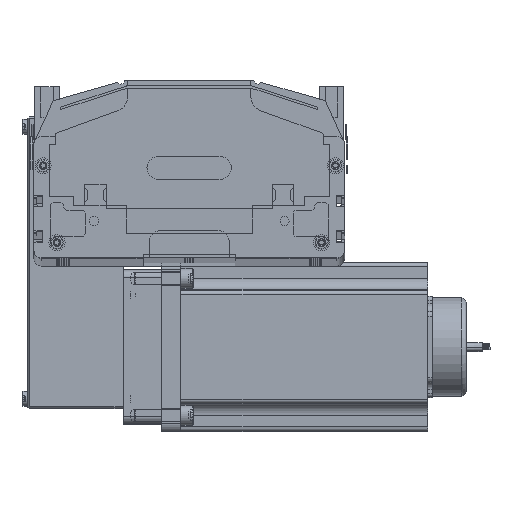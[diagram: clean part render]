
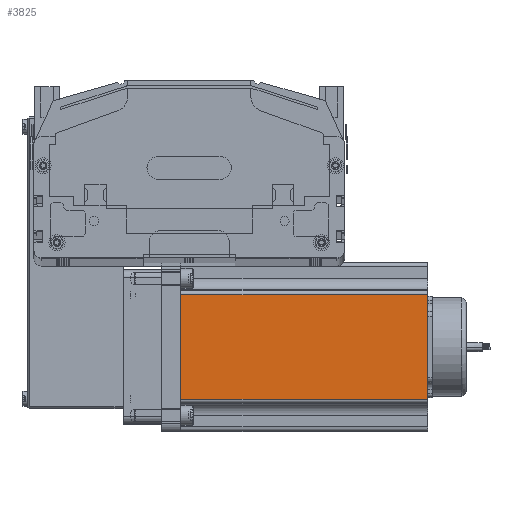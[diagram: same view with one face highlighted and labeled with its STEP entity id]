
A CAD part, top view. The second image highlights one B-rep face of the part: STEP entity #3825.
In plain terms, the highlighted planar face has unit normal (0, 0, 1) as drawn and (0, -1, 0) by its records, which use the part's own axes.
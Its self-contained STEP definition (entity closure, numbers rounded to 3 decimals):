
#3213 = DIRECTION ( 'NONE',  ( 0., 0., 1. ) ) ;
#3214 = VECTOR ( 'NONE', #3213, 1000. ) ;
#3215 = CARTESIAN_POINT ( 'NONE',  ( 88.952, 0., 160.5 ) ) ;
#3216 = LINE ( 'NONE', #3215, #3214 ) ;
#3217 = DIRECTION ( 'NONE',  ( 0., 0., 1. ) ) ;
#3218 = DIRECTION ( 'NONE',  ( 0., 1., 0. ) ) ;
#3219 = CARTESIAN_POINT ( 'NONE',  ( 0., 0., 160.5 ) ) ;
#3220 = AXIS2_PLACEMENT_3D ( 'NONE', #3219, #3218, #3217 ) ;
#3221 = CARTESIAN_POINT ( 'NONE',  ( 88.952, 0., 160.5 ) ) ;
#3222 = PLANE ( 'NONE',  #3220 ) ;
#3224 = FACE_OUTER_BOUND ( 'NONE', #3899, .T. ) ;
#3298 = LINE ( 'NONE', #3327, #3326 ) ;
#3325 = DIRECTION ( 'NONE',  ( 1., 0., 0. ) ) ;
#3326 = VECTOR ( 'NONE', #3325, 1000. ) ;
#3327 = CARTESIAN_POINT ( 'NONE',  ( 0., 0., 0. ) ) ;
#3330 = CARTESIAN_POINT ( 'NONE',  ( 88.952, 0., 0. ) ) ;
#3331 = CARTESIAN_POINT ( 'NONE',  ( 21.048, 0., 0. ) ) ;
#3564 = ORIENTED_EDGE ( 'NONE', *, *, #10217, .F. ) ;
#3825 = ADVANCED_FACE ( 'NONE', ( #3224 ), #3222, .F. ) ;
#3827 = ORIENTED_EDGE ( 'NONE', *, *, #3831, .T. ) ;
#3829 = ORIENTED_EDGE ( 'NONE', *, *, #3960, .T. ) ;
#3831 = EDGE_CURVE ( 'NONE', #3959, #3837, #3216, .T. ) ;
#3837 = VERTEX_POINT ( 'NONE', #3221 ) ;
#3899 = EDGE_LOOP ( 'NONE', ( #3829, #3827, #3564, #10146 ) ) ;
#3957 = VERTEX_POINT ( 'NONE', #3331 ) ;
#3959 = VERTEX_POINT ( 'NONE', #3330 ) ;
#3960 = EDGE_CURVE ( 'NONE', #3957, #3959, #3298, .T. ) ;
#10146 = ORIENTED_EDGE ( 'NONE', *, *, #10305, .T. ) ;
#10217 = EDGE_CURVE ( 'NONE', #10251, #3837, #85827, .T. ) ;
#10251 = VERTEX_POINT ( 'NONE', #85909 ) ;
#10305 = EDGE_CURVE ( 'NONE', #10251, #3957, #49881, .T. ) ;
#49866 = DIRECTION ( 'NONE',  ( 0., 0., -1. ) ) ;
#49867 = VECTOR ( 'NONE', #49866, 1000. ) ;
#49880 = CARTESIAN_POINT ( 'NONE',  ( 21.048, 0., 160.5 ) ) ;
#49881 = LINE ( 'NONE', #49880, #49867 ) ;
#85823 = DIRECTION ( 'NONE',  ( 1., 0., 0. ) ) ;
#85824 = VECTOR ( 'NONE', #85823, 1000. ) ;
#85825 = CARTESIAN_POINT ( 'NONE',  ( 0., 0., 160.5 ) ) ;
#85827 = LINE ( 'NONE', #85825, #85824 ) ;
#85909 = CARTESIAN_POINT ( 'NONE',  ( 21.048, 0., 160.5 ) ) ;
